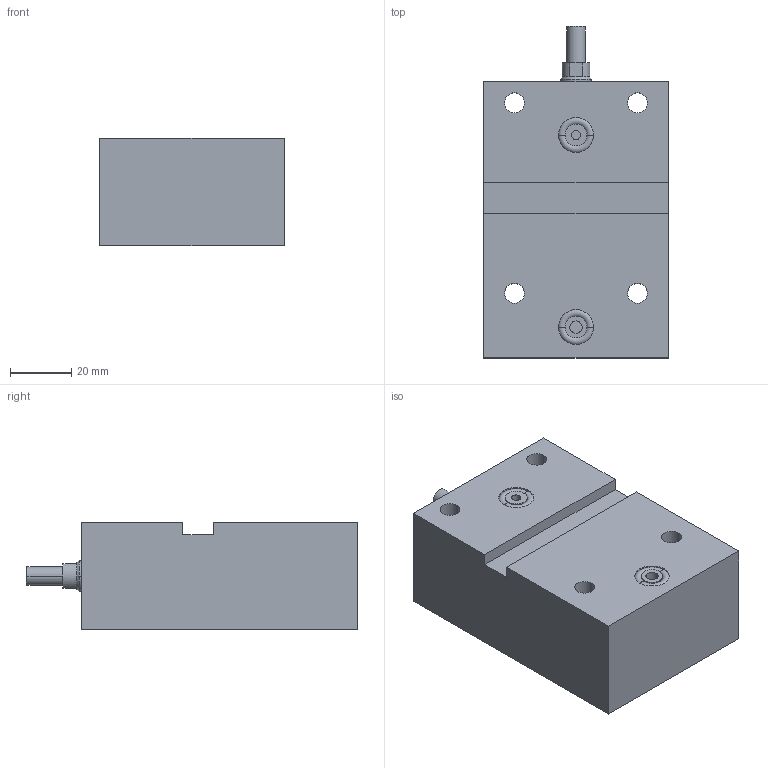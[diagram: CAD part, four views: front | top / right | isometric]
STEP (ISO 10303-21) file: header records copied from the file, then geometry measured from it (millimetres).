
FILE_DESCRIPTION (( 'STEP AP203' ), '1' );
FILE_NAME ('GERMA_Blockzylinder_603-016-050-A.STEP', '2016-01-04T15:54:29', ( '' ), ( '' ), 'SwSTEP 2.0', 'SolidWorks 2015', '' );
FILE_SCHEMA (( 'CONFIG_CONTROL_DESIGN' ));
Length unit declared in the file: millimetre
Products named in the file (3): GERMA_Blockzylinder_603-016-050-A; GH-600-016_GH-603-016-050; Kolben 60x-016_Kolben DU.16-Hub50-AG
Assembly tree (2 placements, depth 2):
  GERMA_Blockzylinder_603-016-050-A
    GH-600-016_GH-603-016-050
    Kolben 60x-016_Kolben DU.16-Hub50-AG
Bounding box: 60 x 108 x 35 mm (x, y, z)
Volume: 176375.9 mm3; surface area: 31914.9 mm2
Topology: 2 solids, 2 shells, 79 faces, 174 edges, 107 vertices
Faces by surface type: cylinder 37, plane 26, cone 12, torus 4
Entity records: 2484 total; most frequent: DIRECTION 429, CARTESIAN_POINT 361, ORIENTED_EDGE 340, AXIS2_PLACEMENT_3D 175, EDGE_CURVE 170, VERTEX_POINT 107, EDGE_LOOP 99, CIRCLE 91
